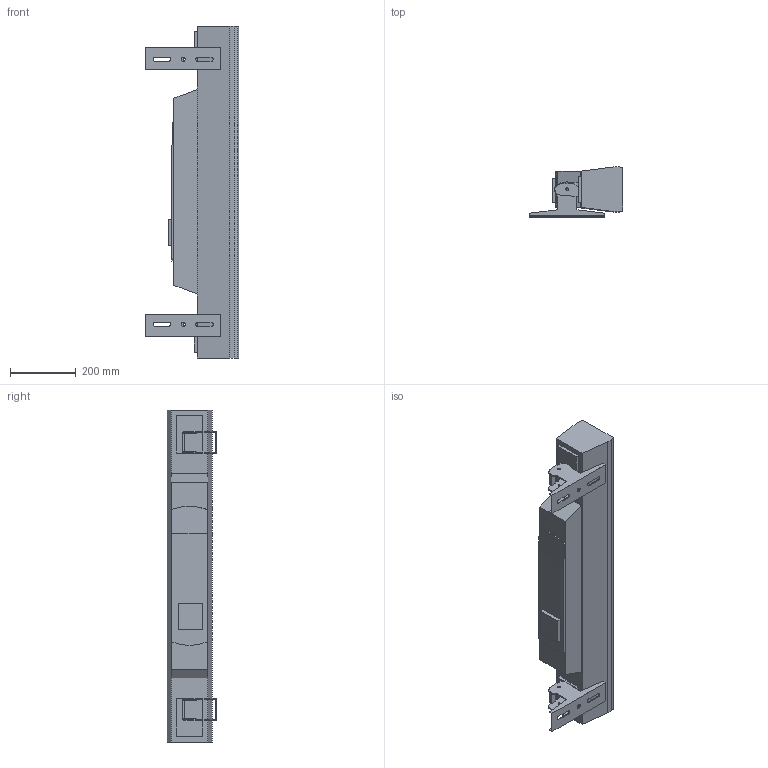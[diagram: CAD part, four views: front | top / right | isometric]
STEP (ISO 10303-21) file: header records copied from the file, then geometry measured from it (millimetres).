
FILE_DESCRIPTION(/* description */ (''),/* implementation_level */ '2;1');
FILE_NAME(/* name */ 'D:/dgooch/Documents/CADENG/PRO/Colorado Solo Batten/90/Colorado Solo Batten_90.step',/* time_stamp */ '2019-03-25T14:12:35-04:00',/* author */ ('dgooch'),/* organization */ (''),/* preprocessor_version */ 'ST-DEVELOPER v17.2',/* originating_system */ 'Autodesk Translation Framework v7.6.0.251',/* authorisation */ '');
FILE_SCHEMA (('AUTOMOTIVE_DESIGN { 1 0 10303 214 3 1 1 }'));
Length unit declared in the file: millimetre
Products named in the file (4): Colorado Solo Batten; Bracket ; Bracket (Mirror); Main
Assembly tree (3 placements, depth 2):
  Colorado Solo Batten
    Bracket 
    Bracket (Mirror)
    Main
Bounding box: 284.04 x 152.46 x 1013.1 mm (x, y, z)
Volume: 21087738.4 mm3; surface area: 818094.3 mm2
Topology: 3 solids, 3 shells, 147 faces, 433 edges, 298 vertices
Faces by surface type: plane 105, cylinder 40, bspline 2
Full cylindrical faces by diameter (mm): 6.8 x4, 8.5 x4, 13 x2
Entity records: 5182 total; most frequent: CARTESIAN_POINT 975, ORIENTED_EDGE 866, DIRECTION 827, EDGE_CURVE 433, LINE 335, VECTOR 335, VERTEX_POINT 298, AXIS2_PLACEMENT_3D 246
